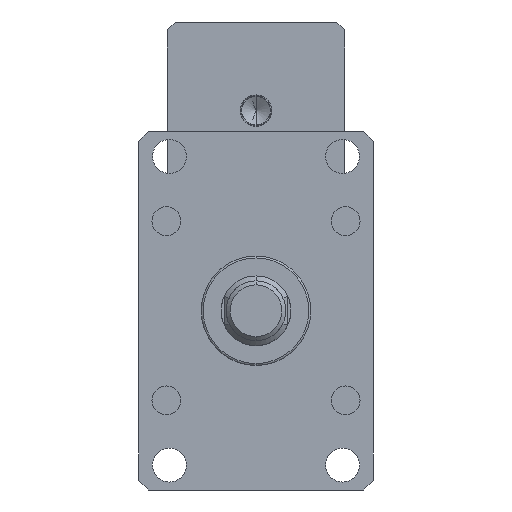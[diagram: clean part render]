
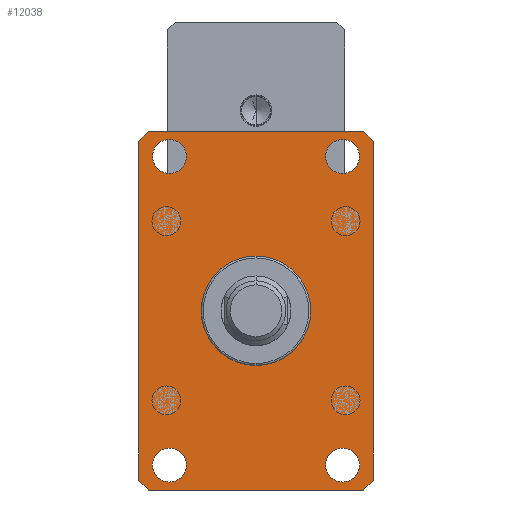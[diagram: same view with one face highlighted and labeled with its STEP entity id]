
A CAD part, front view. The second image highlights one B-rep face of the part: STEP entity #12038.
In plain terms, the highlighted planar face has unit normal (0, -1, 0).
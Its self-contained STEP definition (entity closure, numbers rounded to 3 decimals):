
#39 = CARTESIAN_POINT ( 'NONE',  ( -54., -55., -90. ) ) ;
#71 = AXIS2_PLACEMENT_3D ( 'NONE', #5761, #12606, #6752 ) ;
#151 = EDGE_CURVE ( 'NONE', #4977, #5420, #2264, .T. ) ;
#226 = CARTESIAN_POINT ( 'NONE',  ( 59., -55., 85. ) ) ;
#295 = ORIENTED_EDGE ( 'NONE', *, *, #2157, .T. ) ;
#416 = EDGE_LOOP ( 'NONE', ( #6430, #714 ) ) ;
#630 = EDGE_CURVE ( 'NONE', #7484, #2173, #3157, .T. ) ;
#671 = ORIENTED_EDGE ( 'NONE', *, *, #151, .T. ) ;
#714 = ORIENTED_EDGE ( 'NONE', *, *, #9574, .T. ) ;
#767 = CARTESIAN_POINT ( 'NONE',  ( 43.5, -55., 77.5 ) ) ;
#921 = CARTESIAN_POINT ( 'NONE',  ( 43.5, -55., -86. ) ) ;
#948 = DIRECTION ( 'NONE',  ( 0., 1., 0. ) ) ;
#967 = AXIS2_PLACEMENT_3D ( 'NONE', #3183, #5129, #11041 ) ;
#1157 = EDGE_CURVE ( 'NONE', #11721, #7617, #6077, .T. ) ;
#1244 = DIRECTION ( 'NONE',  ( 0., -1., 0. ) ) ;
#1266 = EDGE_CURVE ( 'NONE', #8989, #10040, #7788, .T. ) ;
#1538 = CARTESIAN_POINT ( 'NONE',  ( -43.5, -55., 69. ) ) ;
#1659 = ORIENTED_EDGE ( 'NONE', *, *, #2072, .T. ) ;
#1718 = CIRCLE ( 'NONE', #11028, 8.5 ) ;
#1778 = DIRECTION ( 'NONE',  ( 0., 0., -1. ) ) ;
#1779 = FACE_BOUND ( 'NONE', #8481, .T. ) ;
#1857 = CIRCLE ( 'NONE', #4011, 8.5 ) ;
#1951 = CARTESIAN_POINT ( 'NONE',  ( -54., -55., 90. ) ) ;
#1956 = VECTOR ( 'NONE', #8397, 1000. ) ;
#2013 = LINE ( 'NONE', #9505, #6985 ) ;
#2032 = EDGE_CURVE ( 'NONE', #2173, #7484, #1718, .T. ) ;
#2072 = EDGE_CURVE ( 'NONE', #6696, #11721, #8987, .T. ) ;
#2157 = EDGE_CURVE ( 'NONE', #10040, #8989, #8063, .T. ) ;
#2165 = PLANE ( 'NONE',  #967 ) ;
#2173 = VERTEX_POINT ( 'NONE', #10787 ) ;
#2264 = LINE ( 'NONE', #9657, #1956 ) ;
#2303 = CARTESIAN_POINT ( 'NONE',  ( -59., -55., 85. ) ) ;
#2426 = ORIENTED_EDGE ( 'NONE', *, *, #8386, .F. ) ;
#2653 = DIRECTION ( 'NONE',  ( 0.707, 0., -0.707 ) ) ;
#2837 = LINE ( 'NONE', #226, #5151 ) ;
#2999 = ORIENTED_EDGE ( 'NONE', *, *, #5410, .T. ) ;
#3157 = CIRCLE ( 'NONE', #12322, 8.5 ) ;
#3183 = CARTESIAN_POINT ( 'NONE',  ( 59., -55., -90. ) ) ;
#3451 = DIRECTION ( 'NONE',  ( -0.707, 0., -0.707 ) ) ;
#3524 = VERTEX_POINT ( 'NONE', #6161 ) ;
#3904 = CARTESIAN_POINT ( 'NONE',  ( -43.5, -55., -86. ) ) ;
#4011 = AXIS2_PLACEMENT_3D ( 'NONE', #11474, #5606, #12458 ) ;
#4059 = DIRECTION ( 'NONE',  ( 0., 0., 1. ) ) ;
#4253 = DIRECTION ( 'NONE',  ( 0., 1., 0. ) ) ;
#4372 = VERTEX_POINT ( 'NONE', #1538 ) ;
#4411 = EDGE_LOOP ( 'NONE', ( #6529, #2426 ) ) ;
#4430 = FACE_BOUND ( 'NONE', #416, .T. ) ;
#4487 = ORIENTED_EDGE ( 'NONE', *, *, #9229, .T. ) ;
#4615 = DIRECTION ( 'NONE',  ( 0.707, 0., 0.707 ) ) ;
#4866 = CARTESIAN_POINT ( 'NONE',  ( -43.5, -55., 86. ) ) ;
#4977 = VERTEX_POINT ( 'NONE', #5742 ) ;
#5030 = CARTESIAN_POINT ( 'NONE',  ( 43.5, -55., 69. ) ) ;
#5085 = DIRECTION ( 'NONE',  ( 0., -1., 0. ) ) ;
#5129 = DIRECTION ( 'NONE',  ( 0., 1., 0. ) ) ;
#5151 = VECTOR ( 'NONE', #7180, 1000. ) ;
#5250 = CARTESIAN_POINT ( 'NONE',  ( 54., -55., -90. ) ) ;
#5410 = EDGE_CURVE ( 'NONE', #6904, #6696, #2837, .T. ) ;
#5420 = VERTEX_POINT ( 'NONE', #8171 ) ;
#5606 = DIRECTION ( 'NONE',  ( 0., 1., 0. ) ) ;
#5687 = AXIS2_PLACEMENT_3D ( 'NONE', #10120, #4253, #11119 ) ;
#5742 = CARTESIAN_POINT ( 'NONE',  ( -59., -55., 85. ) ) ;
#5761 = CARTESIAN_POINT ( 'NONE',  ( -43.5, -55., 77.5 ) ) ;
#5771 = VERTEX_POINT ( 'NONE', #3904 ) ;
#5870 = VECTOR ( 'NONE', #3451, 1000. ) ;
#6077 = LINE ( 'NONE', #1951, #10692 ) ;
#6161 = CARTESIAN_POINT ( 'NONE',  ( -43.5, -55., -69. ) ) ;
#6167 = LINE ( 'NONE', #2303, #5870 ) ;
#6188 = AXIS2_PLACEMENT_3D ( 'NONE', #12655, #9933, #4059 ) ;
#6217 = EDGE_CURVE ( 'NONE', #10919, #6904, #2013, .T. ) ;
#6366 = VECTOR ( 'NONE', #9732, 1000. ) ;
#6430 = ORIENTED_EDGE ( 'NONE', *, *, #7228, .T. ) ;
#6437 = CARTESIAN_POINT ( 'NONE',  ( 59., -55., 85. ) ) ;
#6509 = ORIENTED_EDGE ( 'NONE', *, *, #6217, .T. ) ;
#6529 = ORIENTED_EDGE ( 'NONE', *, *, #9793, .F. ) ;
#6586 = VECTOR ( 'NONE', #2653, 1000. ) ;
#6678 = ORIENTED_EDGE ( 'NONE', *, *, #630, .F. ) ;
#6696 = VERTEX_POINT ( 'NONE', #6437 ) ;
#6752 = DIRECTION ( 'NONE',  ( 0., 0., -1. ) ) ;
#6801 = CIRCLE ( 'NONE', #8825, 8.5 ) ;
#6904 = VERTEX_POINT ( 'NONE', #7150 ) ;
#6909 = CARTESIAN_POINT ( 'NONE',  ( -43.5, -55., -77.5 ) ) ;
#6985 = VECTOR ( 'NONE', #4615, 1000. ) ;
#7150 = CARTESIAN_POINT ( 'NONE',  ( 59., -55., -85. ) ) ;
#7180 = DIRECTION ( 'NONE',  ( 0., 0., 1. ) ) ;
#7200 = CARTESIAN_POINT ( 'NONE',  ( -43.5, -55., 77.5 ) ) ;
#7228 = EDGE_CURVE ( 'NONE', #3524, #5771, #1857, .T. ) ;
#7356 = CARTESIAN_POINT ( 'NONE',  ( -54., -55., 90. ) ) ;
#7360 = FACE_BOUND ( 'NONE', #9421, .T. ) ;
#7484 = VERTEX_POINT ( 'NONE', #5030 ) ;
#7617 = VERTEX_POINT ( 'NONE', #7356 ) ;
#7680 = EDGE_LOOP ( 'NONE', ( #4487, #6509, #2999, #1659, #11157, #10636, #671, #11363 ) ) ;
#7717 = DIRECTION ( 'NONE',  ( 0., -1., 0. ) ) ;
#7788 = CIRCLE ( 'NONE', #5687, 8.5 ) ;
#7898 = DIRECTION ( 'NONE',  ( -1., 0., 0. ) ) ;
#7905 = DIRECTION ( 'NONE',  ( 0., 0., 1. ) ) ;
#7941 = VERTEX_POINT ( 'NONE', #4866 ) ;
#8063 = CIRCLE ( 'NONE', #6188, 8.5 ) ;
#8171 = CARTESIAN_POINT ( 'NONE',  ( -59., -55., -85. ) ) ;
#8201 = DIRECTION ( 'NONE',  ( 0., 0., -1. ) ) ;
#8386 = EDGE_CURVE ( 'NONE', #4372, #7941, #10765, .T. ) ;
#8397 = DIRECTION ( 'NONE',  ( 0., 0., -1. ) ) ;
#8481 = EDGE_LOOP ( 'NONE', ( #11238, #6678 ) ) ;
#8640 = CARTESIAN_POINT ( 'NONE',  ( 54., -55., 90. ) ) ;
#8717 = CARTESIAN_POINT ( 'NONE',  ( 54., -55., 90. ) ) ;
#8825 = AXIS2_PLACEMENT_3D ( 'NONE', #7200, #1244, #8201 ) ;
#8987 = LINE ( 'NONE', #8717, #6366 ) ;
#8989 = VERTEX_POINT ( 'NONE', #921 ) ;
#9191 = LINE ( 'NONE', #12457, #6586 ) ;
#9229 = EDGE_CURVE ( 'NONE', #10265, #10919, #10321, .T. ) ;
#9260 = CIRCLE ( 'NONE', #12330, 8.5 ) ;
#9324 = DIRECTION ( 'NONE',  ( 1., 0., 0. ) ) ;
#9418 = VECTOR ( 'NONE', #9324, 1000. ) ;
#9421 = EDGE_LOOP ( 'NONE', ( #295, #11914 ) ) ;
#9505 = CARTESIAN_POINT ( 'NONE',  ( 54., -55., -90. ) ) ;
#9574 = EDGE_CURVE ( 'NONE', #5771, #3524, #9260, .T. ) ;
#9657 = CARTESIAN_POINT ( 'NONE',  ( -59., -55., 85. ) ) ;
#9668 = FACE_BOUND ( 'NONE', #4411, .T. ) ;
#9732 = DIRECTION ( 'NONE',  ( -0.707, 0., 0.707 ) ) ;
#9793 = EDGE_CURVE ( 'NONE', #7941, #4372, #6801, .T. ) ;
#9862 = EDGE_CURVE ( 'NONE', #7617, #4977, #6167, .T. ) ;
#9933 = DIRECTION ( 'NONE',  ( 0., 1., 0. ) ) ;
#10040 = VERTEX_POINT ( 'NONE', #11662 ) ;
#10120 = CARTESIAN_POINT ( 'NONE',  ( 43.5, -55., -77.5 ) ) ;
#10265 = VERTEX_POINT ( 'NONE', #39 ) ;
#10321 = LINE ( 'NONE', #12220, #9418 ) ;
#10636 = ORIENTED_EDGE ( 'NONE', *, *, #9862, .T. ) ;
#10692 = VECTOR ( 'NONE', #7898, 1000. ) ;
#10765 = CIRCLE ( 'NONE', #71, 8.5 ) ;
#10787 = CARTESIAN_POINT ( 'NONE',  ( 43.5, -55., 86. ) ) ;
#10919 = VERTEX_POINT ( 'NONE', #5250 ) ;
#10959 = CARTESIAN_POINT ( 'NONE',  ( 43.5, -55., 77.5 ) ) ;
#11028 = AXIS2_PLACEMENT_3D ( 'NONE', #767, #7717, #1778 ) ;
#11041 = DIRECTION ( 'NONE',  ( 0., 0., 1. ) ) ;
#11119 = DIRECTION ( 'NONE',  ( 0., 0., 1. ) ) ;
#11157 = ORIENTED_EDGE ( 'NONE', *, *, #1157, .T. ) ;
#11238 = ORIENTED_EDGE ( 'NONE', *, *, #2032, .F. ) ;
#11363 = ORIENTED_EDGE ( 'NONE', *, *, #12251, .T. ) ;
#11474 = CARTESIAN_POINT ( 'NONE',  ( -43.5, -55., -77.5 ) ) ;
#11662 = CARTESIAN_POINT ( 'NONE',  ( 43.5, -55., -69. ) ) ;
#11721 = VERTEX_POINT ( 'NONE', #8640 ) ;
#11914 = ORIENTED_EDGE ( 'NONE', *, *, #1266, .T. ) ;
#11938 = DIRECTION ( 'NONE',  ( 0., 0., -1. ) ) ;
#12038 = ADVANCED_FACE ( 'NONE', ( #9668, #7360, #4430, #12245, #1779 ), #2165, .F. ) ;
#12220 = CARTESIAN_POINT ( 'NONE',  ( -54., -55., -90. ) ) ;
#12245 = FACE_OUTER_BOUND ( 'NONE', #7680, .T. ) ;
#12251 = EDGE_CURVE ( 'NONE', #5420, #10265, #9191, .T. ) ;
#12322 = AXIS2_PLACEMENT_3D ( 'NONE', #10959, #5085, #11938 ) ;
#12330 = AXIS2_PLACEMENT_3D ( 'NONE', #6909, #948, #7905 ) ;
#12457 = CARTESIAN_POINT ( 'NONE',  ( -59., -55., -85. ) ) ;
#12458 = DIRECTION ( 'NONE',  ( 0., 0., 1. ) ) ;
#12606 = DIRECTION ( 'NONE',  ( 0., -1., 0. ) ) ;
#12655 = CARTESIAN_POINT ( 'NONE',  ( 43.5, -55., -77.5 ) ) ;
